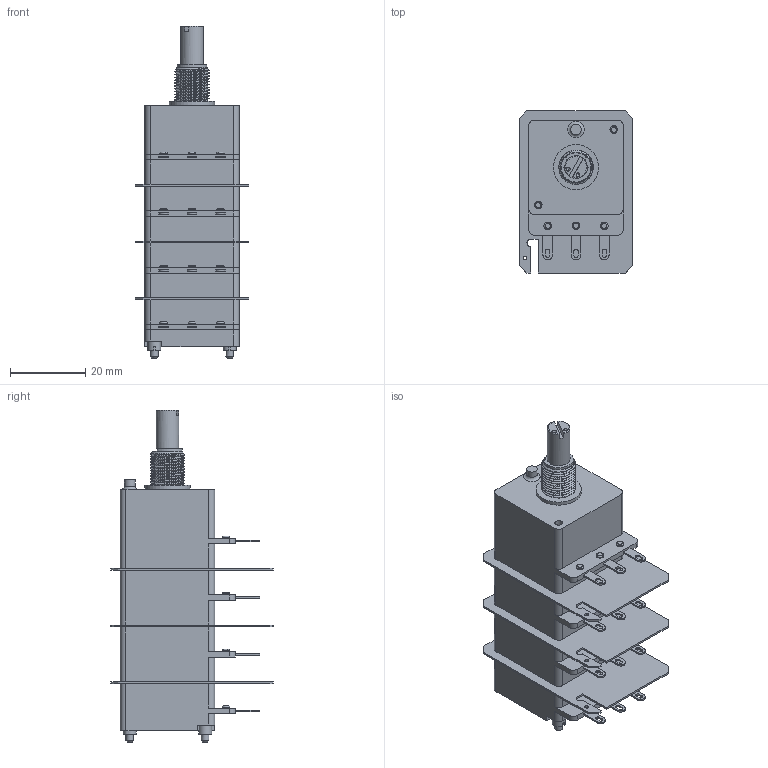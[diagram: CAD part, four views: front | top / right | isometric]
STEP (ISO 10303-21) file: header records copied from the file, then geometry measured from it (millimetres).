
FILE_DESCRIPTION(('FreeCAD Model'),'2;1');
FILE_NAME('Open CASCADE Shape Model','2026-07-14T15:30:10',(''),(''), 'Open CASCADE STEP processor 7.8','FreeCAD','Unknown');
FILE_SCHEMA(('AUTOMOTIVE_DESIGN { 1 0 10303 214 1 1 1 1 }'));
Length unit declared in the file: millimetre
Products named in the file (1): 4CP25XX-S-6SM20
Bounding box: 30 x 43 x 88 mm (x, y, z)
Volume: 42173.5 mm3; surface area: 16169.9 mm2
Topology: 1 solids, 26 shells, 514 faces, 1179 edges, 776 vertices
Faces by surface type: plane 287, cylinder 165, bspline 38, torus 16, cone 6, sphere 2
Full cylindrical faces by diameter (mm): 1 x3, 1.9 x14, 2 x32, 2.2 x20, 2.8 x1, 3.5 x2, 4.5 x4, 5.4 x1, 6 x1, 6.05 x1, 8 x1, 9 x3, 12 x1
Entity records: 22048 total; most frequent: CARTESIAN_POINT 6840, DIRECTION 2459, ORIENTED_EDGE 2352, EDGE_CURVE 1176, AXIS2_PLACEMENT_3D 916, VERTEX_POINT 776, LINE 627, VECTOR 627
